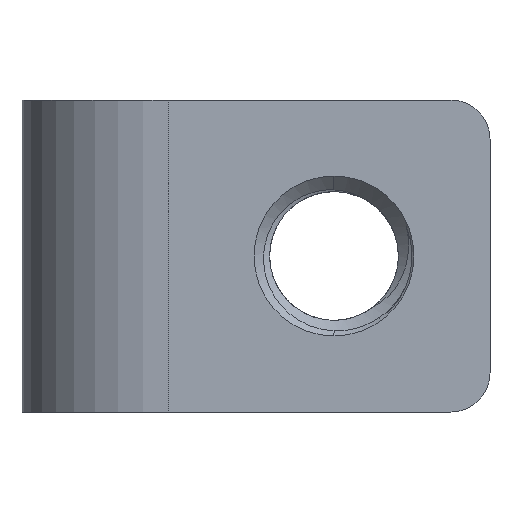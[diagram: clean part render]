
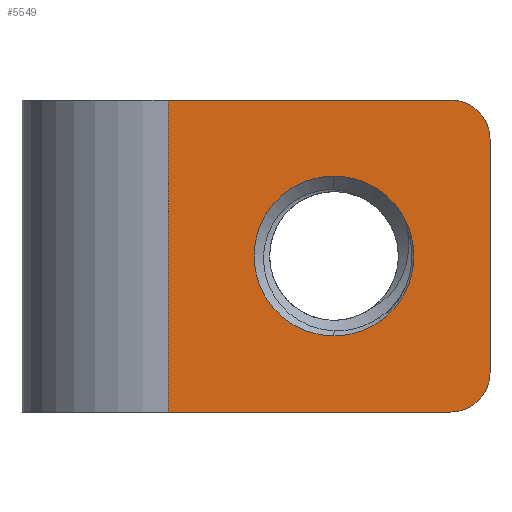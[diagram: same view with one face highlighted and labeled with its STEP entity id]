
A CAD part, front view. The second image highlights one B-rep face of the part: STEP entity #5549.
In plain terms, the highlighted planar face has unit normal (0, -1, 0).
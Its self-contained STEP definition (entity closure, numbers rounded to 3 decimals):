
#140 = AXIS2_PLACEMENT_3D ( 'NONE', #6100, #447, #6143 ) ;
#305 = DIRECTION ( 'NONE',  ( -1., 0., 0. ) ) ;
#373 = VERTEX_POINT ( 'NONE', #2509 ) ;
#376 = CARTESIAN_POINT ( 'NONE',  ( 9.5, -2.5, 8. ) ) ;
#447 = DIRECTION ( 'NONE',  ( 0., 1., 0. ) ) ;
#466 = PLANE ( 'NONE',  #140 ) ;
#524 = CARTESIAN_POINT ( 'NONE',  ( 8.5, -2.5, 0. ) ) ;
#742 = EDGE_CURVE ( 'NONE', #6037, #6116, #2843, .T. ) ;
#850 = DIRECTION ( 'NONE',  ( 0., -1., 0. ) ) ;
#1154 = DIRECTION ( 'NONE',  ( 1., 0., 0. ) ) ;
#1451 = CIRCLE ( 'NONE', #6084, 1. ) ;
#1472 = VECTOR ( 'NONE', #1154, 1000. ) ;
#1544 = VERTEX_POINT ( 'NONE', #4931 ) ;
#1612 = EDGE_CURVE ( 'NONE', #1544, #5282, #4538, .T. ) ;
#1624 = VECTOR ( 'NONE', #2949, 1000. ) ;
#1658 = VERTEX_POINT ( 'NONE', #1963 ) ;
#1750 = EDGE_CURVE ( 'NONE', #373, #4777, #1803, .T. ) ;
#1803 = CIRCLE ( 'NONE', #2530, 2.05 ) ;
#1962 = EDGE_CURVE ( 'NONE', #4777, #373, #2193, .T. ) ;
#1963 = CARTESIAN_POINT ( 'NONE',  ( 9.5, -2.5, 1. ) ) ;
#2184 = VECTOR ( 'NONE', #2454, 1000. ) ;
#2193 = CIRCLE ( 'NONE', #6685, 2.05 ) ;
#2314 = ORIENTED_EDGE ( 'NONE', *, *, #6151, .T. ) ;
#2387 = EDGE_LOOP ( 'NONE', ( #5908, #3672 ) ) ;
#2454 = DIRECTION ( 'NONE',  ( 0., 0., -1. ) ) ;
#2509 = CARTESIAN_POINT ( 'NONE',  ( 5.5, -2.5, 1.95 ) ) ;
#2530 = AXIS2_PLACEMENT_3D ( 'NONE', #3951, #5523, #6050 ) ;
#2843 = LINE ( 'NONE', #4715, #1472 ) ;
#2890 = DIRECTION ( 'NONE',  ( 0., 1., 0. ) ) ;
#2929 = DIRECTION ( 'NONE',  ( -1., 0., 0. ) ) ;
#2949 = DIRECTION ( 'NONE',  ( 1., 0., 0. ) ) ;
#3039 = CARTESIAN_POINT ( 'NONE',  ( 1.25, -2.5, 8. ) ) ;
#3444 = CARTESIAN_POINT ( 'NONE',  ( 1.25, -2.5, 8. ) ) ;
#3486 = ORIENTED_EDGE ( 'NONE', *, *, #5985, .T. ) ;
#3527 = AXIS2_PLACEMENT_3D ( 'NONE', #6521, #850, #4460 ) ;
#3672 = ORIENTED_EDGE ( 'NONE', *, *, #1962, .T. ) ;
#3857 = EDGE_CURVE ( 'NONE', #5957, #1658, #6466, .T. ) ;
#3875 = DIRECTION ( 'NONE',  ( 0., -1., 0. ) ) ;
#3951 = CARTESIAN_POINT ( 'NONE',  ( 5.5, -2.5, 4. ) ) ;
#4450 = ORIENTED_EDGE ( 'NONE', *, *, #6028, .T. ) ;
#4460 = DIRECTION ( 'NONE',  ( -1., 0., 0. ) ) ;
#4481 = CARTESIAN_POINT ( 'NONE',  ( 9.5, -2.5, 7. ) ) ;
#4538 = LINE ( 'NONE', #6046, #1624 ) ;
#4715 = CARTESIAN_POINT ( 'NONE',  ( 0., -2.5, 8. ) ) ;
#4777 = VERTEX_POINT ( 'NONE', #4849 ) ;
#4849 = CARTESIAN_POINT ( 'NONE',  ( 5.5, -2.5, 6.05 ) ) ;
#4931 = CARTESIAN_POINT ( 'NONE',  ( 1.25, -2.5, 0. ) ) ;
#4962 = CARTESIAN_POINT ( 'NONE',  ( 5.5, -2.5, 4. ) ) ;
#5006 = LINE ( 'NONE', #3039, #5081 ) ;
#5081 = VECTOR ( 'NONE', #6629, 1000. ) ;
#5161 = FACE_OUTER_BOUND ( 'NONE', #6359, .T. ) ;
#5282 = VERTEX_POINT ( 'NONE', #524 ) ;
#5434 = CARTESIAN_POINT ( 'NONE',  ( 8.5, -2.5, 8. ) ) ;
#5523 = DIRECTION ( 'NONE',  ( 0., 1., 0. ) ) ;
#5549 = ADVANCED_FACE ( 'NONE', ( #6133, #5161 ), #466, .F. ) ;
#5788 = ORIENTED_EDGE ( 'NONE', *, *, #742, .F. ) ;
#5908 = ORIENTED_EDGE ( 'NONE', *, *, #1750, .T. ) ;
#5957 = VERTEX_POINT ( 'NONE', #4481 ) ;
#5973 = CARTESIAN_POINT ( 'NONE',  ( 8.5, -2.5, 7. ) ) ;
#5985 = EDGE_CURVE ( 'NONE', #5282, #1658, #6214, .T. ) ;
#6028 = EDGE_CURVE ( 'NONE', #5957, #6116, #1451, .T. ) ;
#6037 = VERTEX_POINT ( 'NONE', #3444 ) ;
#6046 = CARTESIAN_POINT ( 'NONE',  ( 0., -2.5, 0. ) ) ;
#6050 = DIRECTION ( 'NONE',  ( -1., 0., 0. ) ) ;
#6084 = AXIS2_PLACEMENT_3D ( 'NONE', #5973, #3875, #2929 ) ;
#6100 = CARTESIAN_POINT ( 'NONE',  ( 0., -2.5, 8. ) ) ;
#6116 = VERTEX_POINT ( 'NONE', #5434 ) ;
#6133 = FACE_BOUND ( 'NONE', #2387, .T. ) ;
#6143 = DIRECTION ( 'NONE',  ( -1., 0., 0. ) ) ;
#6151 = EDGE_CURVE ( 'NONE', #6037, #1544, #5006, .T. ) ;
#6214 = CIRCLE ( 'NONE', #3527, 1. ) ;
#6359 = EDGE_LOOP ( 'NONE', ( #6679, #3486, #6660, #4450, #5788, #2314 ) ) ;
#6466 = LINE ( 'NONE', #376, #2184 ) ;
#6521 = CARTESIAN_POINT ( 'NONE',  ( 8.5, -2.5, 1. ) ) ;
#6629 = DIRECTION ( 'NONE',  ( 0., 0., -1. ) ) ;
#6660 = ORIENTED_EDGE ( 'NONE', *, *, #3857, .F. ) ;
#6679 = ORIENTED_EDGE ( 'NONE', *, *, #1612, .T. ) ;
#6685 = AXIS2_PLACEMENT_3D ( 'NONE', #4962, #2890, #305 ) ;
